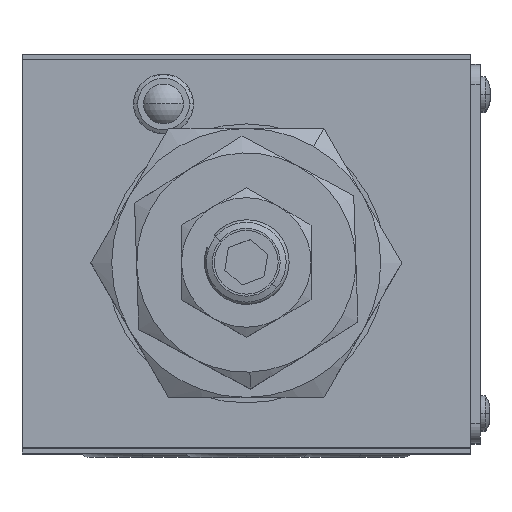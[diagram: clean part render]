
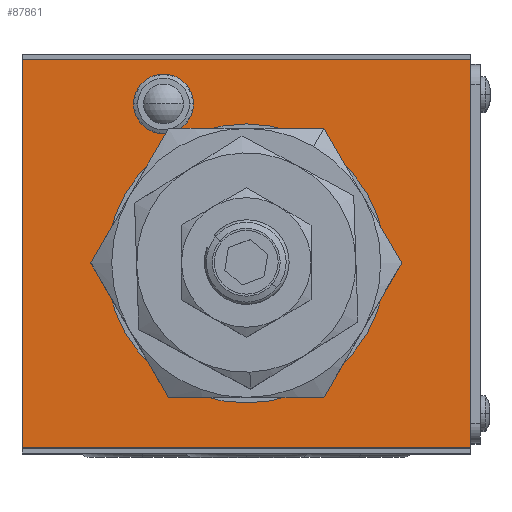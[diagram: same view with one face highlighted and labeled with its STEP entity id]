
A CAD part, top view. The second image highlights one B-rep face of the part: STEP entity #87861.
In plain terms, the highlighted planar face has unit normal (0, 0, 1).
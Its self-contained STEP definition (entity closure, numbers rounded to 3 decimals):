
#3582 = EDGE_CURVE ( 'NONE', #61116, #89195, #87996, .T. ) ;
#6706 = CARTESIAN_POINT ( 'NONE',  ( -22.5, -19.5, 46.5 ) ) ;
#9963 = ORIENTED_EDGE ( 'NONE', *, *, #26375, .F. ) ;
#10708 = VERTEX_POINT ( 'NONE', #36067 ) ;
#12328 = VECTOR ( 'NONE', #22820, 1000. ) ;
#13268 = EDGE_CURVE ( 'NONE', #76918, #10708, #19603, .T. ) ;
#14200 = CARTESIAN_POINT ( 'NONE',  ( 22.5, 20., 46.5 ) ) ;
#15006 = CARTESIAN_POINT ( 'NONE',  ( -8.3, 15., 46.5 ) ) ;
#15281 = DIRECTION ( 'NONE',  ( 1., 0., 0. ) ) ;
#16772 = VERTEX_POINT ( 'NONE', #68134 ) ;
#19603 = CIRCLE ( 'NONE', #89178, 3. ) ;
#22820 = DIRECTION ( 'NONE',  ( 0., 1., 0. ) ) ;
#23583 = DIRECTION ( 'NONE',  ( 1., 0., 0. ) ) ;
#24756 = AXIS2_PLACEMENT_3D ( 'NONE', #15006, #74872, #23583 ) ;
#26375 = EDGE_CURVE ( 'NONE', #16772, #36962, #81395, .T. ) ;
#26393 = DIRECTION ( 'NONE',  ( 0., 0., 1. ) ) ;
#27474 = ORIENTED_EDGE ( 'NONE', *, *, #56957, .F. ) ;
#32071 = PLANE ( 'NONE',  #41853 ) ;
#32073 = DIRECTION ( 'NONE',  ( 0., 0., 1. ) ) ;
#35124 = LINE ( 'NONE', #14200, #12328 ) ;
#36067 = CARTESIAN_POINT ( 'NONE',  ( -11.3, 15., 46.5 ) ) ;
#36962 = VERTEX_POINT ( 'NONE', #6706 ) ;
#37111 = FACE_BOUND ( 'NONE', #51369, .T. ) ;
#37353 = CIRCLE ( 'NONE', #24756, 3. ) ;
#37414 = CARTESIAN_POINT ( 'NONE',  ( -22.5, 19.5, 46.5 ) ) ;
#41853 = AXIS2_PLACEMENT_3D ( 'NONE', #99471, #66557, #15281 ) ;
#45518 = VERTEX_POINT ( 'NONE', #101048 ) ;
#45618 = DIRECTION ( 'NONE',  ( 0., 0., 1. ) ) ;
#48897 = CARTESIAN_POINT ( 'NONE',  ( -5.3, 15., 46.5 ) ) ;
#51369 = EDGE_LOOP ( 'NONE', ( #68566, #89136 ) ) ;
#51595 = CARTESIAN_POINT ( 'NONE',  ( -22.5, 20., 46.5 ) ) ;
#52266 = EDGE_CURVE ( 'NONE', #45518, #69465, #65916, .T. ) ;
#55925 = VECTOR ( 'NONE', #58091, 1000. ) ;
#56957 = EDGE_CURVE ( 'NONE', #10708, #76918, #37353, .T. ) ;
#57219 = FACE_OUTER_BOUND ( 'NONE', #78522, .T. ) ;
#58091 = DIRECTION ( 'NONE',  ( -1., 0., 0. ) ) ;
#61116 = VERTEX_POINT ( 'NONE', #108654 ) ;
#62484 = EDGE_CURVE ( 'NONE', #16772, #69465, #35124, .T. ) ;
#63925 = VECTOR ( 'NONE', #85326, 1000. ) ;
#65916 = LINE ( 'NONE', #37414, #68600 ) ;
#66557 = DIRECTION ( 'NONE',  ( 0., 0., 1. ) ) ;
#68134 = CARTESIAN_POINT ( 'NONE',  ( 22.5, -19.5, 46.5 ) ) ;
#68566 = ORIENTED_EDGE ( 'NONE', *, *, #74055, .F. ) ;
#68600 = VECTOR ( 'NONE', #97275, 1000. ) ;
#69465 = VERTEX_POINT ( 'NONE', #89284 ) ;
#70178 = ORIENTED_EDGE ( 'NONE', *, *, #105115, .T. ) ;
#72872 = CIRCLE ( 'NONE', #105200, 14. ) ;
#74042 = CARTESIAN_POINT ( 'NONE',  ( 14., -1., 46.5 ) ) ;
#74055 = EDGE_CURVE ( 'NONE', #89195, #61116, #72872, .T. ) ;
#74371 = ORIENTED_EDGE ( 'NONE', *, *, #52266, .F. ) ;
#74872 = DIRECTION ( 'NONE',  ( 0., 0., 1. ) ) ;
#75731 = ORIENTED_EDGE ( 'NONE', *, *, #13268, .F. ) ;
#76196 = ORIENTED_EDGE ( 'NONE', *, *, #62484, .T. ) ;
#76918 = VERTEX_POINT ( 'NONE', #48897 ) ;
#77724 = CARTESIAN_POINT ( 'NONE',  ( 0., -1., 46.5 ) ) ;
#78522 = EDGE_LOOP ( 'NONE', ( #9963, #76196, #74371, #70178 ) ) ;
#80013 = FACE_BOUND ( 'NONE', #93472, .T. ) ;
#81395 = LINE ( 'NONE', #92067, #55925 ) ;
#82877 = AXIS2_PLACEMENT_3D ( 'NONE', #77724, #26393, #86285 ) ;
#83419 = CARTESIAN_POINT ( 'NONE',  ( -8.3, 15., 46.5 ) ) ;
#85326 = DIRECTION ( 'NONE',  ( 0., -1., 0. ) ) ;
#86285 = DIRECTION ( 'NONE',  ( 1., 0., 0. ) ) ;
#87861 = ADVANCED_FACE ( 'NONE', ( #80013, #37111, #57219 ), #32071, .T. ) ;
#87996 = CIRCLE ( 'NONE', #82877, 14. ) ;
#89136 = ORIENTED_EDGE ( 'NONE', *, *, #3582, .F. ) ;
#89178 = AXIS2_PLACEMENT_3D ( 'NONE', #83419, #32073, #91935 ) ;
#89195 = VERTEX_POINT ( 'NONE', #74042 ) ;
#89284 = CARTESIAN_POINT ( 'NONE',  ( 22.5, 19.5, 46.5 ) ) ;
#91935 = DIRECTION ( 'NONE',  ( 1., 0., 0. ) ) ;
#92067 = CARTESIAN_POINT ( 'NONE',  ( 22.5, -19.5, 46.5 ) ) ;
#93472 = EDGE_LOOP ( 'NONE', ( #75731, #27474 ) ) ;
#96872 = CARTESIAN_POINT ( 'NONE',  ( 0., -1., 46.5 ) ) ;
#97275 = DIRECTION ( 'NONE',  ( 1., 0., 0. ) ) ;
#99471 = CARTESIAN_POINT ( 'NONE',  ( -22.5, -20., 46.5 ) ) ;
#101048 = CARTESIAN_POINT ( 'NONE',  ( -22.5, 19.5, 46.5 ) ) ;
#105115 = EDGE_CURVE ( 'NONE', #45518, #36962, #109499, .T. ) ;
#105200 = AXIS2_PLACEMENT_3D ( 'NONE', #96872, #45618, #105570 ) ;
#105570 = DIRECTION ( 'NONE',  ( 1., 0., 0. ) ) ;
#108654 = CARTESIAN_POINT ( 'NONE',  ( -14., -1., 46.5 ) ) ;
#109499 = LINE ( 'NONE', #51595, #63925 ) ;
